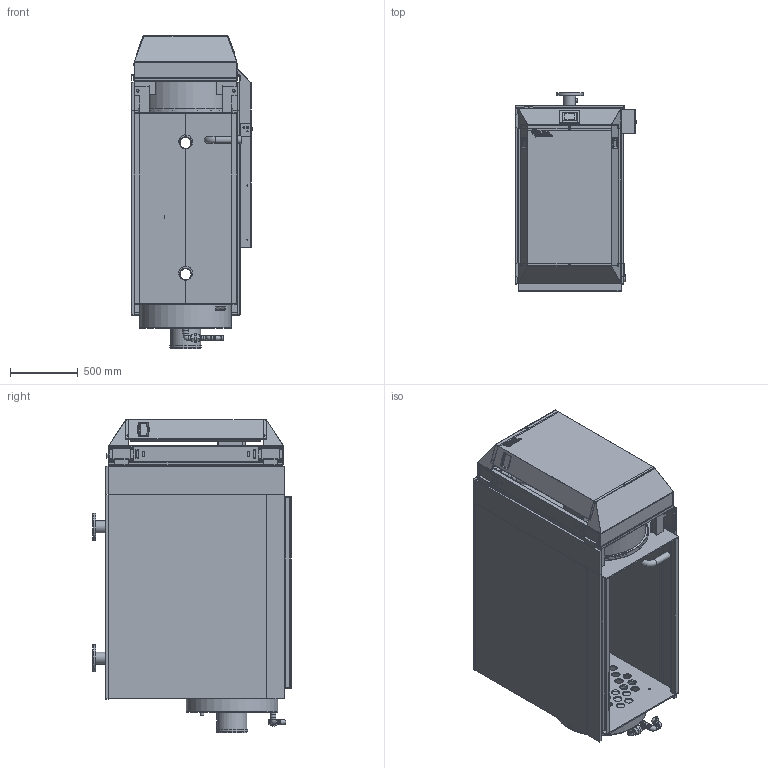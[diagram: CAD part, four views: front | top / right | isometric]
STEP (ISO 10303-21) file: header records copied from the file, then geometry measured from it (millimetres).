
FILE_DESCRIPTION (( 'STEP AP203' ), '1' );
FILE_NAME ('GT3 250.STEP', '2019-03-07T16:11:20', ( '' ), ( '' ), 'SwSTEP 2.0', 'SolidWorks 2019', '' );
FILE_SCHEMA (( 'CONFIG_CONTROL_DESIGN' ));
Products named in the file (1): GT3 250
Bounding box: 900.78 x 1463.5 x 2313.2 mm (x, y, z)
Surface area: 28299815 mm2 (no closed solid volume)
Topology: 0 solids, 1046 shells, 2246 faces, 11163 edges, 9771 vertices
Faces by surface type: plane 1459, cylinder 513, torus 104, bspline 94, sphere 46, cone 30
Full cylindrical faces by diameter (mm): 0.5 x2, 0.9 x2, 1.1 x2, 1.2 x3, 1.3 x8, 1.52 x1, 1.6 x4, 1.65 x2, 2 x5, 2.47 x2, 2.67 x2, 2.8 x2, 2.85 x3, 2.9 x4, 3.3 x2, 4 x3, 4.25 x6, 4.5 x1, 5 x5, 5.5 x1, 6 x1, 6.8 x1, 8 x12, 8.9 x1, 9 x2, 12 x1, 14 x5, 16 x2, 18 x8, 18.8 x2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
Entity records: 117105 total; most frequent: CARTESIAN_POINT 33242, DIRECTION 16389, ORIENTED_EDGE 12414, EDGE_CURVE 10820, VERTEX_POINT 9686, VECTOR 7513, LINE 7513, AXIS2_PLACEMENT_3D 4438
